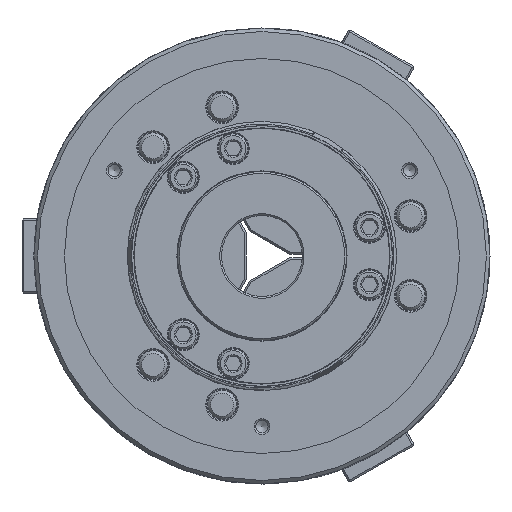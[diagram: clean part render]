
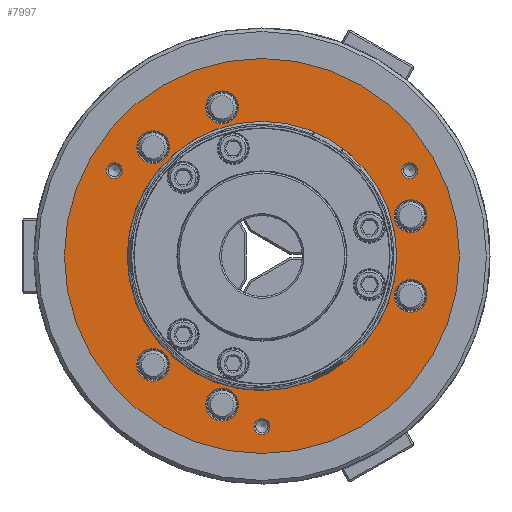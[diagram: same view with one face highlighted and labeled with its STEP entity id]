
A CAD part, left-side view. The second image highlights one B-rep face of the part: STEP entity #7997.
In plain terms, the highlighted planar face has unit normal (-1, 0, 0).
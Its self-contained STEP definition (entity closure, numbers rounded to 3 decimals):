
#213 = DIRECTION ( 'NONE',  ( -1., 0., 0. ) ) ;
#1346 = CIRCLE ( 'NONE', #40988, 110. ) ;
#2507 = EDGE_LOOP ( 'NONE', ( #17501 ) ) ;
#2706 = VERTEX_POINT ( 'NONE', #13331 ) ;
#3495 = CARTESIAN_POINT ( 'NONE',  ( -95., 0., -95. ) ) ;
#3797 = EDGE_LOOP ( 'NONE', ( #47968 ) ) ;
#4105 = DIRECTION ( 'NONE',  ( 0., 0., -1. ) ) ;
#4818 = DIRECTION ( 'NONE',  ( 0., 0., 1. ) ) ;
#5324 = DIRECTION ( 'NONE',  ( 1., 0., 0. ) ) ;
#5633 = EDGE_LOOP ( 'NONE', ( #57273 ) ) ;
#6131 = VERTEX_POINT ( 'NONE', #11455 ) ;
#6188 = CARTESIAN_POINT ( 'NONE',  ( -95., -82.272, 47.5 ) ) ;
#7519 = FACE_BOUND ( 'NONE', #44101, .T. ) ;
#7997 = ADVANCED_FACE ( 'NONE', ( #57160, #67483, #45125, #7519, #66775, #18171, #35526, #8559, #39824, #29188, #29525 ), #24904, .F. ) ;
#8236 = AXIS2_PLACEMENT_3D ( 'NONE', #50518, #24253, #29245 ) ;
#8559 = FACE_BOUND ( 'NONE', #3797, .T. ) ;
#9510 = DIRECTION ( 'NONE',  ( -1., 0., 0. ) ) ;
#10811 = DIRECTION ( 'NONE',  ( -1., 0., 0. ) ) ;
#11071 = CARTESIAN_POINT ( 'NONE',  ( -95., 82.272, 47.5 ) ) ;
#11237 = CARTESIAN_POINT ( 'NONE',  ( -95., -82.804, -22.187 ) ) ;
#11252 = EDGE_CURVE ( 'NONE', #6131, #6131, #67569, .T. ) ;
#11455 = CARTESIAN_POINT ( 'NONE',  ( -95., 0., 75. ) ) ;
#11774 = DIRECTION ( 'NONE',  ( 1., 0., 0. ) ) ;
#12821 = CARTESIAN_POINT ( 'NONE',  ( -95., 110., 0. ) ) ;
#12986 = CARTESIAN_POINT ( 'NONE',  ( -95., 82.272, 51.9 ) ) ;
#13331 = CARTESIAN_POINT ( 'NONE',  ( -95., 22.187, 73.704 ) ) ;
#13829 = AXIS2_PLACEMENT_3D ( 'NONE', #39102, #11774, #33049 ) ;
#14737 = CARTESIAN_POINT ( 'NONE',  ( -95., 60.617, -60.617 ) ) ;
#15127 = AXIS2_PLACEMENT_3D ( 'NONE', #30358, #34969, #4105 ) ;
#17501 = ORIENTED_EDGE ( 'NONE', *, *, #62908, .T. ) ;
#18171 = FACE_BOUND ( 'NONE', #37396, .T. ) ;
#18610 = EDGE_LOOP ( 'NONE', ( #57078 ) ) ;
#19373 = CARTESIAN_POINT ( 'NONE',  ( -95., 60.617, 51.517 ) ) ;
#19488 = CARTESIAN_POINT ( 'NONE',  ( -95., 0., -90.6 ) ) ;
#19992 = CIRCLE ( 'NONE', #26802, 9.1 ) ;
#21614 = CARTESIAN_POINT ( 'NONE',  ( -95., 60.617, -69.717 ) ) ;
#21835 = AXIS2_PLACEMENT_3D ( 'NONE', #11071, #60373, #32706 ) ;
#22493 = AXIS2_PLACEMENT_3D ( 'NONE', #12821, #23856, #30213 ) ;
#23856 = DIRECTION ( 'NONE',  ( 1., 0., 0. ) ) ;
#24165 = ORIENTED_EDGE ( 'NONE', *, *, #24960, .F. ) ;
#24253 = DIRECTION ( 'NONE',  ( 1., 0., 0. ) ) ;
#24904 = PLANE ( 'NONE',  #22493 ) ;
#24960 = EDGE_CURVE ( 'NONE', #68091, #68091, #27061, .T. ) ;
#25216 = CIRCLE ( 'NONE', #13829, 9.1 ) ;
#26459 = DIRECTION ( 'NONE',  ( 0., 0., 1. ) ) ;
#26595 = DIRECTION ( 'NONE',  ( 0., 0., 1. ) ) ;
#26727 = EDGE_CURVE ( 'NONE', #42864, #42864, #19992, .T. ) ;
#26802 = AXIS2_PLACEMENT_3D ( 'NONE', #11237, #28278, #49223 ) ;
#27061 = CIRCLE ( 'NONE', #56497, 4.4 ) ;
#27181 = CARTESIAN_POINT ( 'NONE',  ( -95., 0., 0. ) ) ;
#27944 = CARTESIAN_POINT ( 'NONE',  ( -95., -82.804, 13.087 ) ) ;
#28278 = DIRECTION ( 'NONE',  ( 1., 0., 0. ) ) ;
#29188 = FACE_BOUND ( 'NONE', #5633, .T. ) ;
#29245 = DIRECTION ( 'NONE',  ( 0., 0., -1. ) ) ;
#29525 = FACE_OUTER_BOUND ( 'NONE', #61315, .T. ) ;
#29922 = EDGE_CURVE ( 'NONE', #48210, #48210, #32524, .T. ) ;
#30026 = CARTESIAN_POINT ( 'NONE',  ( -95., -82.272, 51.9 ) ) ;
#30213 = DIRECTION ( 'NONE',  ( 0., 0., -1. ) ) ;
#30358 = CARTESIAN_POINT ( 'NONE',  ( -95., 22.187, -82.804 ) ) ;
#32524 = CIRCLE ( 'NONE', #61943, 9.1 ) ;
#32706 = DIRECTION ( 'NONE',  ( 0., 0., 1. ) ) ;
#33049 = DIRECTION ( 'NONE',  ( 0., 0., -1. ) ) ;
#33566 = AXIS2_PLACEMENT_3D ( 'NONE', #42523, #47162, #26595 ) ;
#34969 = DIRECTION ( 'NONE',  ( 1., 0., 0. ) ) ;
#35264 = EDGE_LOOP ( 'NONE', ( #45332 ) ) ;
#35526 = FACE_BOUND ( 'NONE', #58336, .T. ) ;
#36331 = EDGE_LOOP ( 'NONE', ( #59574 ) ) ;
#36387 = DIRECTION ( 'NONE',  ( 0., 0., -1. ) ) ;
#36654 = CIRCLE ( 'NONE', #15127, 9.1 ) ;
#37396 = EDGE_LOOP ( 'NONE', ( #49157 ) ) ;
#37747 = EDGE_LOOP ( 'NONE', ( #68629 ) ) ;
#39102 = CARTESIAN_POINT ( 'NONE',  ( -95., 60.617, 60.617 ) ) ;
#39824 = FACE_BOUND ( 'NONE', #36331, .T. ) ;
#40988 = AXIS2_PLACEMENT_3D ( 'NONE', #27181, #213, #4818 ) ;
#41092 = CARTESIAN_POINT ( 'NONE',  ( -95., 0., 110. ) ) ;
#42159 = EDGE_CURVE ( 'NONE', #62380, #62380, #1346, .T. ) ;
#42523 = CARTESIAN_POINT ( 'NONE',  ( -95., 0., 0. ) ) ;
#42864 = VERTEX_POINT ( 'NONE', #64159 ) ;
#42911 = DIRECTION ( 'NONE',  ( 0., 0., -1. ) ) ;
#43219 = ORIENTED_EDGE ( 'NONE', *, *, #29922, .T. ) ;
#44101 = EDGE_LOOP ( 'NONE', ( #43219 ) ) ;
#44581 = VERTEX_POINT ( 'NONE', #65881 ) ;
#45125 = FACE_BOUND ( 'NONE', #37747, .T. ) ;
#45332 = ORIENTED_EDGE ( 'NONE', *, *, #60547, .F. ) ;
#46332 = VERTEX_POINT ( 'NONE', #19373 ) ;
#46772 = CIRCLE ( 'NONE', #21835, 4.4 ) ;
#47162 = DIRECTION ( 'NONE',  ( -1., 0., 0. ) ) ;
#47968 = ORIENTED_EDGE ( 'NONE', *, *, #56550, .T. ) ;
#48210 = VERTEX_POINT ( 'NONE', #21614 ) ;
#49157 = ORIENTED_EDGE ( 'NONE', *, *, #59875, .T. ) ;
#49223 = DIRECTION ( 'NONE',  ( 0., 0., -1. ) ) ;
#50518 = CARTESIAN_POINT ( 'NONE',  ( -95., -82.804, 22.187 ) ) ;
#53747 = DIRECTION ( 'NONE',  ( 1., 0., 0. ) ) ;
#54897 = VERTEX_POINT ( 'NONE', #27944 ) ;
#56497 = AXIS2_PLACEMENT_3D ( 'NONE', #3495, #9510, #62738 ) ;
#56550 = EDGE_CURVE ( 'NONE', #54897, #54897, #61470, .T. ) ;
#56627 = VERTEX_POINT ( 'NONE', #30026 ) ;
#56698 = EDGE_CURVE ( 'NONE', #66942, #66942, #46772, .T. ) ;
#57078 = ORIENTED_EDGE ( 'NONE', *, *, #56698, .F. ) ;
#57160 = FACE_BOUND ( 'NONE', #18610, .T. ) ;
#57273 = ORIENTED_EDGE ( 'NONE', *, *, #11252, .F. ) ;
#57726 = EDGE_CURVE ( 'NONE', #44581, #44581, #36654, .T. ) ;
#58336 = EDGE_LOOP ( 'NONE', ( #24165 ) ) ;
#59574 = ORIENTED_EDGE ( 'NONE', *, *, #26727, .T. ) ;
#59875 = EDGE_CURVE ( 'NONE', #2706, #2706, #65348, .T. ) ;
#60373 = DIRECTION ( 'NONE',  ( -1., 0., 0. ) ) ;
#60547 = EDGE_CURVE ( 'NONE', #56627, #56627, #64695, .T. ) ;
#61142 = AXIS2_PLACEMENT_3D ( 'NONE', #6188, #10811, #26459 ) ;
#61315 = EDGE_LOOP ( 'NONE', ( #64723 ) ) ;
#61470 = CIRCLE ( 'NONE', #8236, 9.1 ) ;
#61943 = AXIS2_PLACEMENT_3D ( 'NONE', #14737, #53747, #36387 ) ;
#62380 = VERTEX_POINT ( 'NONE', #41092 ) ;
#62738 = DIRECTION ( 'NONE',  ( 0., 0., 1. ) ) ;
#62908 = EDGE_CURVE ( 'NONE', #46332, #46332, #25216, .T. ) ;
#64159 = CARTESIAN_POINT ( 'NONE',  ( -95., -82.804, -31.287 ) ) ;
#64695 = CIRCLE ( 'NONE', #61142, 4.4 ) ;
#64723 = ORIENTED_EDGE ( 'NONE', *, *, #42159, .T. ) ;
#65348 = CIRCLE ( 'NONE', #66459, 9.1 ) ;
#65881 = CARTESIAN_POINT ( 'NONE',  ( -95., 22.187, -91.904 ) ) ;
#66459 = AXIS2_PLACEMENT_3D ( 'NONE', #69904, #5324, #42911 ) ;
#66775 = FACE_BOUND ( 'NONE', #2507, .T. ) ;
#66942 = VERTEX_POINT ( 'NONE', #12986 ) ;
#67483 = FACE_BOUND ( 'NONE', #35264, .T. ) ;
#67569 = CIRCLE ( 'NONE', #33566, 75. ) ;
#68091 = VERTEX_POINT ( 'NONE', #19488 ) ;
#68629 = ORIENTED_EDGE ( 'NONE', *, *, #57726, .T. ) ;
#69904 = CARTESIAN_POINT ( 'NONE',  ( -95., 22.187, 82.804 ) ) ;
